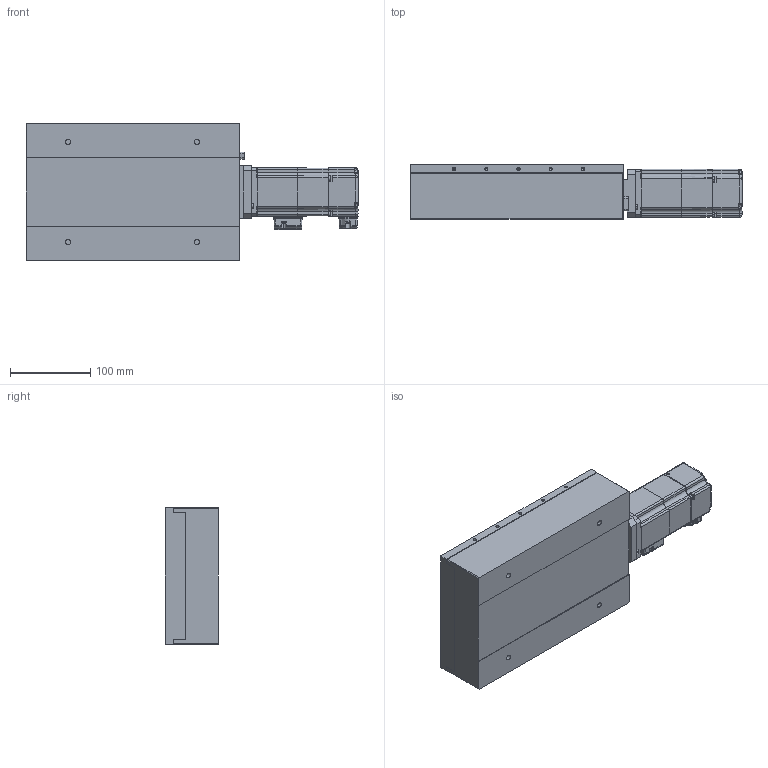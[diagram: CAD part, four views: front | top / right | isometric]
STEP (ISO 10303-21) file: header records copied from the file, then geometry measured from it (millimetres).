
FILE_DESCRIPTION (( 'STEP AP203' ), '1' );
FILE_NAME ('NPS-AC-20B-10x.STEP', '2019-09-23T05:49:52', ( '' ), ( '' ), 'SwSTEP 2.0', 'SolidWorks 2015', '' );
FILE_SCHEMA (( 'CONFIG_CONTROL_DESIGN' ));
Length unit declared in the file: millimetre
Products named in the file (3): NPS-AC-20B-10x_固定部; NPS-AC-20B-10x; NPS-AC-20B-10x_移動部
Assembly tree (2 placements, depth 2):
  NPS-AC-20B-10x
    NPS-AC-20B-10x_移動部
    NPS-AC-20B-10x_固定部
Bounding box: 413 x 67 x 170 mm (x, y, z)
Volume: 976992 mm3; surface area: 328226.8 mm2
Topology: 1 solids, 32 shells, 1063 faces, 3027 edges, 1998 vertices
Faces by surface type: cylinder 407, plane 393, torus 90, cone 72, bspline 52, sphere 49
Entity records: 43773 total; most frequent: CARTESIAN_POINT 16780, DIRECTION 5541, ORIENTED_EDGE 5263, EDGE_CURVE 2958, AXIS2_PLACEMENT_3D 2041, VERTEX_POINT 1978, LINE 1459, VECTOR 1459
